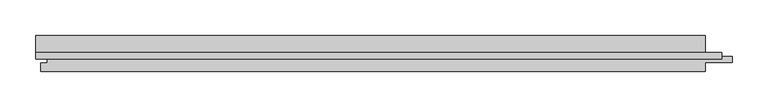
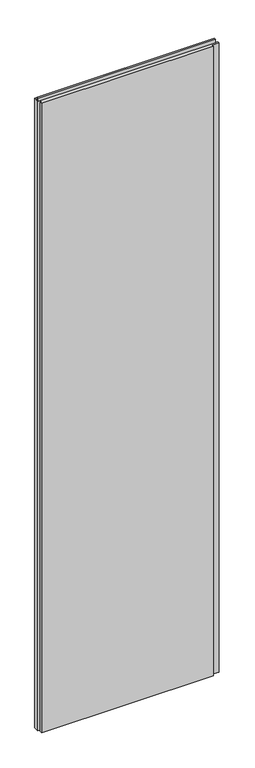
"""IFC4 building model written with IfcOpenShell, lengths in millimetres: plate geometry, Trimo_Qbiss Screen_Normal Panel-VERTICAL : HR - B."""

import ifcopenshell
import ifcopenshell.guid

model = None  # the IFC model being written
_history = None  # IfcOwnerHistory: only IFC2X3 demands one
_inside = {}  # id of a spatial element -> (the spatial element, [elements in it])
_under = {}  # id of a project, library or spatial element -> (it, [spatial elements below it])
_declared = {}  # id of a project -> (the project, [libraries it declares])
_typed = {}  # id of a type object -> (the type object, [elements of that type])
_made_of = {}  # id of a material, layer set ... -> (it, [elements and type objects made of it])


def new_model(schema):
    """Start an empty IFC model of exactly this schema.

    Asked for "IFC4X3", IfcOpenShell would pick the latest addendum, in which some entities
    have other attributes; the version numbers below select the first issue.
    IFC2X3 requires an IfcOwnerHistory on every rooted entity: one is made here for all.
    """
    global model, _history
    if schema == "IFC4X3":
        model = ifcopenshell.file(schema_version=(4, 3, 0, 0))
    else:
        model = ifcopenshell.file(schema=schema)
    _inside.clear()
    _under.clear()
    _declared.clear()
    _typed.clear()
    _made_of.clear()
    _history = None
    if model.schema == "IFC2X3":
        org = make("IfcOrganization", Name="unknown")
        user = make(
            "IfcPersonAndOrganization",
            ThePerson=make("IfcPerson", FamilyName="unknown"),
            TheOrganization=org,
        )
        app = make(
            "IfcApplication",
            ApplicationDeveloper=org,
            Version="unknown",
            ApplicationFullName="unknown",
            ApplicationIdentifier="unknown",
        )
        _history = make(
            "IfcOwnerHistory",
            OwningUser=user,
            OwningApplication=app,
            ChangeAction="ADDED",
            CreationDate=0,
        )
    return model


def make(cls, **values):
    """One entity of the class cls with the attributes given. An attribute that is None is left unset."""
    return model.create_entity(
        cls, **{name: value for name, value in values.items() if value is not None}
    )


def rooted(cls, **values):
    """An entity with a GlobalId (a new one), such as an element, a storey or a relation."""
    return make(cls, GlobalId=ifcopenshell.guid.new(), OwnerHistory=_history, **values)


def si_unit(unit_type, name, prefix=None):
    """IfcSIUnit, for example si_unit("LENGTHUNIT", "METRE", prefix="MILLI")."""
    return make("IfcSIUnit", UnitType=unit_type, Prefix=prefix, Name=name)


def assignment(units):
    """IfcUnitAssignment: the units of a project."""
    return None if units is None else make("IfcUnitAssignment", Units=units)


def point(xyz):
    """IfcCartesianPoint."""
    return None if xyz is None else make("IfcCartesianPoint", Coordinates=xyz)


def direction(xyz):
    """IfcDirection."""
    return None if xyz is None else make("IfcDirection", DirectionRatios=xyz)


def frame(location, z_axis=None, x_axis=None):
    """IfcAxis2Placement3D, a coordinate frame: its origin and axes. An axis left out is left unset."""
    return make(
        "IfcAxis2Placement3D",
        Location=point(location),
        Axis=direction(z_axis),
        RefDirection=direction(x_axis),
    )


def origin():
    """The frame at (0, 0, 0) with its axes left unset."""
    return frame((0.0, 0.0, 0.0))


def place(relative_to, where):
    """IfcLocalPlacement: puts the frame where relative to a parent placement (None: the world)."""
    return make(
        "IfcLocalPlacement", PlacementRelTo=relative_to, RelativePlacement=where
    )


def context(
    kind, dimensions, precision=None, world=None, true_north=None, identifier=None
):
    """IfcGeometricRepresentationContext, for example the 3D "Model" context."""
    return make(
        "IfcGeometricRepresentationContext",
        ContextIdentifier=identifier,
        ContextType=kind,
        CoordinateSpaceDimension=dimensions,
        Precision=precision,
        WorldCoordinateSystem=world,
        TrueNorth=true_north,
    )


def project(units=None, contexts=None):
    """IfcProject with its units and contexts."""
    return rooted(
        "IfcProject",
        Name="project",
        RepresentationContexts=contexts,
        UnitsInContext=assignment(units),
    )


def spatial(cls, under=None, at=None, **own):
    """A site, building, storey or space (cls), placed at a placement, below another one or the project."""
    s = rooted(cls, ObjectPlacement=at, **own)
    if under is not None:
        _under.setdefault(under.id(), (under, []))[1].append(s)
    return s


def polyline(points):
    """IfcPolyline through the points."""
    return make("IfcPolyline", Points=[point(p) for p in points])


def outline(outer, holes=None, kind="AREA"):
    """IfcArbitraryClosedProfileDef: a profile drawn as a closed curve; with holes, ...WithVoids."""
    if holes is None:
        return make("IfcArbitraryClosedProfileDef", ProfileType=kind, OuterCurve=outer)
    return make(
        "IfcArbitraryProfileDefWithVoids",
        ProfileType=kind,
        OuterCurve=outer,
        InnerCurves=holes,
    )


def extrude(swept, where, along, depth):
    """IfcExtrudedAreaSolid: the profile swept, set in the frame where, extruded along a direction by depth."""
    return make(
        "IfcExtrudedAreaSolid",
        SweptArea=swept,
        Position=where,
        ExtrudedDirection=direction(along),
        Depth=depth,
    )


def shape(context_of_items, identifier, shape_type, items):
    """IfcShapeRepresentation: the items that make up one representation, for example the "Body"."""
    return make(
        "IfcShapeRepresentation",
        ContextOfItems=context_of_items,
        RepresentationIdentifier=identifier,
        RepresentationType=shape_type,
        Items=items,
    )


def source(mapping_origin, context_of_items, identifier, shape_type, items):
    """IfcRepresentationMap: a shape defined once, which mapped items show again and again."""
    return make(
        "IfcRepresentationMap",
        MappingOrigin=mapping_origin,
        MappedRepresentation=shape(context_of_items, identifier, shape_type, items),
    )


def transform(
    local_origin,
    x_axis=None,
    y_axis=None,
    z_axis=None,
    scale=None,
    scale2=None,
    scale3=None,
    uniform=True,
):
    """IfcCartesianTransformationOperator3D, or its non-uniform kind. x_axis, y_axis, z_axis: its Axis1, 2, 3."""
    if uniform:
        return make(
            "IfcCartesianTransformationOperator3D",
            Axis1=direction(x_axis),
            Axis2=direction(y_axis),
            LocalOrigin=point(local_origin),
            Scale=scale,
            Axis3=direction(z_axis),
        )
    return make(
        "IfcCartesianTransformationOperator3DnonUniform",
        Axis1=direction(x_axis),
        Axis2=direction(y_axis),
        LocalOrigin=point(local_origin),
        Scale=scale,
        Axis3=direction(z_axis),
        Scale2=scale2,
        Scale3=scale3,
    )


def mapped(mapping_source, mapping_target):
    """IfcMappedItem: shows the shape of a source again, moved by a transform."""
    return make(
        "IfcMappedItem", MappingSource=mapping_source, MappingTarget=mapping_target
    )


def made_of(thing, what):
    """Note that an element or type object is made of a material, layer set ...; save() writes the relation."""
    if what is not None:
        _made_of.setdefault(what.id(), (what, []))[1].append(thing)
    return thing


def element(
    cls,
    number,
    at=None,
    inside=None,
    cuts=None,
    type_object=None,
    material=None,
    context=None,
    identifier="Body",
    shape_type=None,
    held_by="IfcProductDefinitionShape",
    body=None,
    shapes=None,
    **own,
):
    """One element of the class cls, such as IfcWall. Its Tag is "e" and its number.

    at: its placement. inside: the storey or other place that contains it. cuts: it is an
    opening in that element (IfcRelVoidsElement). A single representation is given by context,
    identifier, shape_type and body (its items); several are given by shapes. held_by: the class
    of the entity that holds the representations. save() writes the other relations.
    """
    e = rooted(cls, Tag="e%d" % number, ObjectPlacement=at, **own)
    if body is not None:
        shapes = [shape(context, identifier, shape_type, body)]
    if shapes is not None:
        e.Representation = make(held_by, Representations=shapes)
    if inside is not None:
        _inside.setdefault(inside.id(), (inside, []))[1].append(e)
    if cuts is not None:
        rooted(
            "IfcRelVoidsElement", RelatingBuildingElement=cuts, RelatedOpeningElement=e
        )
    if type_object is not None:
        _typed.setdefault(type_object.id(), (type_object, []))[1].append(e)
    return made_of(e, material)


def aggregate(whole, parts):
    """IfcRelAggregates: a whole, such as a stair, and the parts it consists of."""
    return rooted("IfcRelAggregates", RelatingObject=whole, RelatedObjects=parts)


def save(model, path):
    """Write the relations noted so far, then the file.

    IfcRelAggregates (storeys below a building ...), IfcRelContainedInSpatialStructure (elements
    in a storey), IfcRelDefinesByType, IfcRelAssociatesMaterial and IfcRelDeclares: one each for
    every whole, place, type object, material and project.
    """
    for whole, parts in _under.values():
        aggregate(whole, parts)
    for where, things in _inside.values():
        rooted(
            "IfcRelContainedInSpatialStructure",
            RelatedElements=things,
            RelatingStructure=where,
        )
    for kind, things in _typed.values():
        rooted("IfcRelDefinesByType", RelatedObjects=things, RelatingType=kind)
    for what, things in _made_of.values():
        rooted("IfcRelAssociatesMaterial", RelatedObjects=things, RelatingMaterial=what)
    for by, libraries in _declared.values():
        rooted("IfcRelDeclares", RelatingContext=by, RelatedDefinitions=libraries)
    model.write(path)


def plate_1be4212a(model_context):
    return source(origin(), model_context, "Body", "SweptSolid", [
        extrude(outline(polyline([(455.0, 97.0), (455.0, 102.6), (476.0, 102.6), (476.0, 97.0), (455.0, 97.0)])), frame((0.0, 0.0, 12.5), z_axis=(0.0, 0.0, 1.0), x_axis=(1.0, 0.0, 0.0)), (0.0, 0.0, 1.0), 3575.0),
        extrude(outline(polyline([(-477.0, 93.9), (-477.0, 102.6), (477.0, 102.6), (477.0, 93.9), (-477.0, 93.9)])), frame((0.0, 0.0, 3590.5), z_axis=(0.0, 0.0, 1.0), x_axis=(1.0, 0.0, 0.0)), (0.0, 0.0, 1.0), 19.0),
        extrude(outline(polyline([(454.0, 97.0), (491.5, 97.0), (491.5, 89.0), (454.0, 89.0), (454.0, 76.0), (-470.0, 76.0), (-470.0, 88.0), (-461.5, 88.0), (-461.5, 98.0), (-477.0, 98.0), (-477.0, 126.0), (454.0, 126.0), (454.0, 97.0)])), frame((0.0, 0.0, 12.5), z_axis=(0.0, 0.0, 1.0), x_axis=(1.0, 0.0, 0.0)), (0.0, 0.0, 1.0), 3575.0),
    ])


if __name__ == "__main__":
    model = new_model("IFC4")
    model_context = context("Model", 3, world=origin())
    ifc_project = project(units=[si_unit("LENGTHUNIT", "METRE", prefix="MILLI")], contexts=[model_context])
    site = spatial("IfcSite", under=ifc_project)
    building = spatial("IfcBuilding", under=site)
    placement = place(None, origin())
    plate_shape = plate_1be4212a(model_context)
    element("IfcPlate", 1, ObjectType="Trimo_Qbiss Screen_Normal Panel-VERTICAL : HR - B", at=placement, inside=building, context=model_context, shape_type="MappedRepresentation", body=[
        mapped(plate_shape, transform((0.0, 0.0, 0.0), x_axis=(1.0, 0.0, 0.0), y_axis=(0.0, 1.0, 0.0), z_axis=(0.0, 0.0, 1.0))),
    ])
    save(model, "model.ifc")
